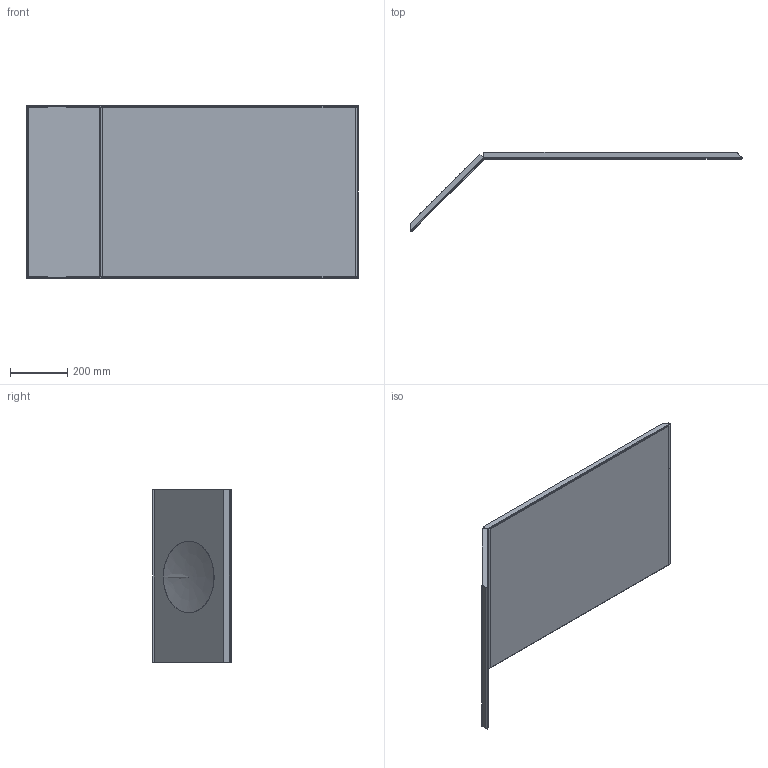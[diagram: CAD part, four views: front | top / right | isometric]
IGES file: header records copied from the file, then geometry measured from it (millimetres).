
Start section: Data from Parasolid IGES Translator 19.0.9, Copyright(c) 2006 Siemens PL M Software. All Rights Reserved.
Global section: file name: noorth-mirror-H 60 D 2,5 W 126_4238.igs; native system: By Siemens PLM Incorporated; preprocessor: XPlus GENERIC/IGES 19.0.9; author: Noname; organization: Noname; date: 20210721.092045; units: metre
Bounding box: 1157.36 x 274.85 x 600 mm (x, y, z)
Volume: 16774031.5 mm3; surface area: 3262504.7 mm2
Topology: 7 solids, 7 shells, 101 faces, 215 edges, 127 vertices
Faces by surface type: plane 83, cylinder 15, bspline 3
Full cylindrical faces by diameter (mm): 250 x1
